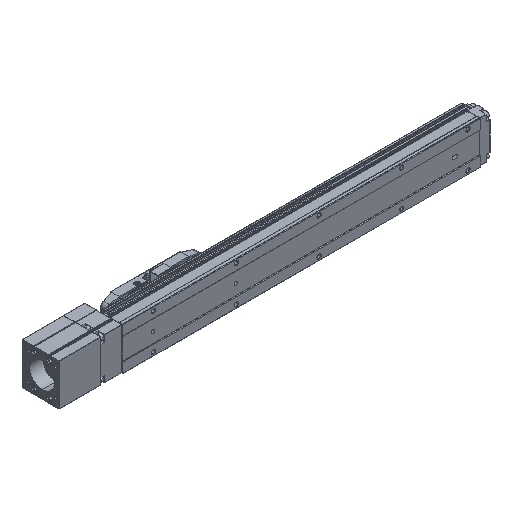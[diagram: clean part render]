
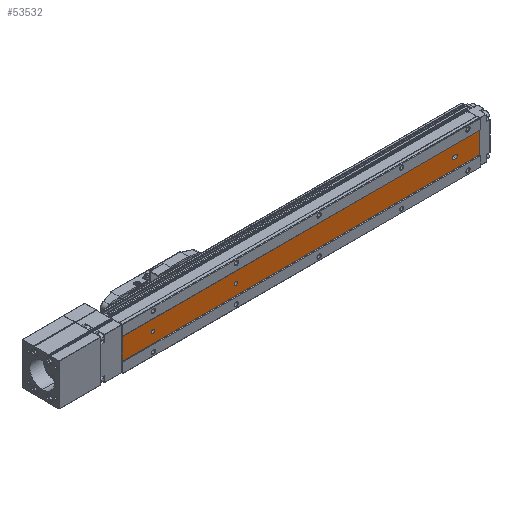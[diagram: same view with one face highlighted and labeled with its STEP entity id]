
A CAD part, isometric view. The second image highlights one B-rep face of the part: STEP entity #53532.
In plain terms, the highlighted planar face has unit normal (0, -1, 0).
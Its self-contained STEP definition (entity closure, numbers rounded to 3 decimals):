
#1189 = EDGE_CURVE ( 'NONE', #6938, #33170, #32039, .T. ) ;
#2406 = CARTESIAN_POINT ( 'NONE',  ( 137., 0.6, 2. ) ) ;
#2728 = CARTESIAN_POINT ( 'NONE',  ( 432., 0.6, 12.876 ) ) ;
#3009 = DIRECTION ( 'NONE',  ( 0., 1., 0. ) ) ;
#4160 = DIRECTION ( 'NONE',  ( 0., -1., 0. ) ) ;
#4248 = VERTEX_POINT ( 'NONE', #15257 ) ;
#4535 = DIRECTION ( 'NONE',  ( 0., 0., -1. ) ) ;
#5008 = ORIENTED_EDGE ( 'NONE', *, *, #44049, .T. ) ;
#5225 = CARTESIAN_POINT ( 'NONE',  ( 137., 0.6, -2. ) ) ;
#6123 = VERTEX_POINT ( 'NONE', #12546 ) ;
#6257 = LINE ( 'NONE', #23349, #11041 ) ;
#6891 = LINE ( 'NONE', #2728, #10584 ) ;
#6938 = VERTEX_POINT ( 'NONE', #25164 ) ;
#7901 = ORIENTED_EDGE ( 'NONE', *, *, #52526, .T. ) ;
#8633 = VERTEX_POINT ( 'NONE', #2406 ) ;
#8977 = ORIENTED_EDGE ( 'NONE', *, *, #17916, .F. ) ;
#8978 = VECTOR ( 'NONE', #4535, 1000. ) ;
#9451 = AXIS2_PLACEMENT_3D ( 'NONE', #25210, #12319, #46984 ) ;
#10294 = EDGE_LOOP ( 'NONE', ( #26788, #34103 ) ) ;
#10511 = CARTESIAN_POINT ( 'NONE',  ( 403., 0.6, 2. ) ) ;
#10527 = CARTESIAN_POINT ( 'NONE',  ( 0., 0.6, -12.876 ) ) ;
#10584 = VECTOR ( 'NONE', #15313, 1000. ) ;
#10670 = EDGE_LOOP ( 'NONE', ( #42092, #33879 ) ) ;
#11038 = CARTESIAN_POINT ( 'NONE',  ( 432., 0.6, 2. ) ) ;
#11041 = VECTOR ( 'NONE', #30859, 1000. ) ;
#11317 = LINE ( 'NONE', #11038, #24736 ) ;
#11319 = CIRCLE ( 'NONE', #36351, 2. ) ;
#11520 = CARTESIAN_POINT ( 'NONE',  ( 432., 0.6, 12.876 ) ) ;
#11890 = FACE_BOUND ( 'NONE', #10294, .T. ) ;
#12310 = VECTOR ( 'NONE', #36135, 1000. ) ;
#12319 = DIRECTION ( 'NONE',  ( 0., 1., 0. ) ) ;
#12546 = CARTESIAN_POINT ( 'NONE',  ( 37., 0.6, 2. ) ) ;
#12578 = ORIENTED_EDGE ( 'NONE', *, *, #24258, .F. ) ;
#14032 = VECTOR ( 'NONE', #36787, 1000. ) ;
#15257 = CARTESIAN_POINT ( 'NONE',  ( 0., 0.6, 12.876 ) ) ;
#15313 = DIRECTION ( 'NONE',  ( -1., 0., 0. ) ) ;
#16507 = CARTESIAN_POINT ( 'NONE',  ( 403., 0.6, 0. ) ) ;
#16926 = FACE_BOUND ( 'NONE', #18112, .T. ) ;
#17156 = LINE ( 'NONE', #38678, #8978 ) ;
#17916 = EDGE_CURVE ( 'NONE', #33170, #44845, #38911, .T. ) ;
#18112 = EDGE_LOOP ( 'NONE', ( #12578, #35252, #8977, #20856 ) ) ;
#19118 = LINE ( 'NONE', #11520, #12310 ) ;
#19673 = DIRECTION ( 'NONE',  ( 0., 0., 1. ) ) ;
#19747 = CARTESIAN_POINT ( 'NONE',  ( 432., 0.6, -2. ) ) ;
#20740 = CARTESIAN_POINT ( 'NONE',  ( 137., 0.6, 0. ) ) ;
#20856 = ORIENTED_EDGE ( 'NONE', *, *, #1189, .F. ) ;
#21123 = FACE_BOUND ( 'NONE', #10670, .T. ) ;
#23349 = CARTESIAN_POINT ( 'NONE',  ( 432., 0.6, -12.876 ) ) ;
#23881 = VERTEX_POINT ( 'NONE', #25341 ) ;
#23980 = CARTESIAN_POINT ( 'NONE',  ( 37., 0.6, 0. ) ) ;
#24258 = EDGE_CURVE ( 'NONE', #51697, #6938, #33917, .T. ) ;
#24736 = VECTOR ( 'NONE', #28383, 1000. ) ;
#25164 = CARTESIAN_POINT ( 'NONE',  ( 401., 0.6, -2. ) ) ;
#25210 = CARTESIAN_POINT ( 'NONE',  ( 37., 0.6, 0. ) ) ;
#25341 = CARTESIAN_POINT ( 'NONE',  ( 37., 0.6, -2. ) ) ;
#25570 = DIRECTION ( 'NONE',  ( 0., 0., 1. ) ) ;
#25589 = CARTESIAN_POINT ( 'NONE',  ( 432., 0.6, -12.876 ) ) ;
#25765 = CIRCLE ( 'NONE', #46329, 2. ) ;
#25851 = AXIS2_PLACEMENT_3D ( 'NONE', #46784, #30258, #37853 ) ;
#26116 = CARTESIAN_POINT ( 'NONE',  ( 432., 0.6, 12.876 ) ) ;
#26465 = CIRCLE ( 'NONE', #29182, 2. ) ;
#26788 = ORIENTED_EDGE ( 'NONE', *, *, #30255, .T. ) ;
#27435 = EDGE_CURVE ( 'NONE', #44845, #51697, #11317, .T. ) ;
#28383 = DIRECTION ( 'NONE',  ( -1., 0., 0. ) ) ;
#28945 = FACE_OUTER_BOUND ( 'NONE', #49468, .T. ) ;
#29182 = AXIS2_PLACEMENT_3D ( 'NONE', #20740, #37788, #54844 ) ;
#29433 = VERTEX_POINT ( 'NONE', #25589 ) ;
#30255 = EDGE_CURVE ( 'NONE', #23881, #6123, #33582, .T. ) ;
#30258 = DIRECTION ( 'NONE',  ( 0., -1., 0. ) ) ;
#30342 = EDGE_CURVE ( 'NONE', #8633, #39595, #26465, .T. ) ;
#30859 = DIRECTION ( 'NONE',  ( -1., 0., 0. ) ) ;
#31628 = ORIENTED_EDGE ( 'NONE', *, *, #38055, .F. ) ;
#32039 = LINE ( 'NONE', #19747, #14032 ) ;
#33170 = VERTEX_POINT ( 'NONE', #54700 ) ;
#33582 = CIRCLE ( 'NONE', #9451, 2. ) ;
#33879 = ORIENTED_EDGE ( 'NONE', *, *, #30342, .T. ) ;
#33917 = CIRCLE ( 'NONE', #25851, 2. ) ;
#33961 = PLANE ( 'NONE',  #34104 ) ;
#34103 = ORIENTED_EDGE ( 'NONE', *, *, #44018, .T. ) ;
#34104 = AXIS2_PLACEMENT_3D ( 'NONE', #26116, #43186, #25570 ) ;
#35252 = ORIENTED_EDGE ( 'NONE', *, *, #27435, .F. ) ;
#36135 = DIRECTION ( 'NONE',  ( 0., 0., -1. ) ) ;
#36267 = DIRECTION ( 'NONE',  ( 0., 0., 1. ) ) ;
#36351 = AXIS2_PLACEMENT_3D ( 'NONE', #53072, #39648, #52796 ) ;
#36787 = DIRECTION ( 'NONE',  ( 1., 0., 0. ) ) ;
#37483 = VERTEX_POINT ( 'NONE', #54217 ) ;
#37788 = DIRECTION ( 'NONE',  ( 0., 1., 0. ) ) ;
#37853 = DIRECTION ( 'NONE',  ( 0., 0., 1. ) ) ;
#38055 = EDGE_CURVE ( 'NONE', #29433, #47327, #6257, .T. ) ;
#38678 = CARTESIAN_POINT ( 'NONE',  ( 0., 0.6, 12.876 ) ) ;
#38911 = CIRCLE ( 'NONE', #51404, 2. ) ;
#39595 = VERTEX_POINT ( 'NONE', #5225 ) ;
#39648 = DIRECTION ( 'NONE',  ( 0., 1., 0. ) ) ;
#41682 = CARTESIAN_POINT ( 'NONE',  ( 401., 0.6, 2. ) ) ;
#42092 = ORIENTED_EDGE ( 'NONE', *, *, #47401, .T. ) ;
#43186 = DIRECTION ( 'NONE',  ( 0., 1., 0. ) ) ;
#43996 = ORIENTED_EDGE ( 'NONE', *, *, #48272, .F. ) ;
#44018 = EDGE_CURVE ( 'NONE', #6123, #23881, #25765, .T. ) ;
#44049 = EDGE_CURVE ( 'NONE', #37483, #4248, #6891, .T. ) ;
#44845 = VERTEX_POINT ( 'NONE', #10511 ) ;
#46329 = AXIS2_PLACEMENT_3D ( 'NONE', #23980, #3009, #36267 ) ;
#46784 = CARTESIAN_POINT ( 'NONE',  ( 401., 0.6, 0. ) ) ;
#46984 = DIRECTION ( 'NONE',  ( 0., 0., 1. ) ) ;
#47327 = VERTEX_POINT ( 'NONE', #10527 ) ;
#47401 = EDGE_CURVE ( 'NONE', #39595, #8633, #11319, .T. ) ;
#48272 = EDGE_CURVE ( 'NONE', #37483, #29433, #19118, .T. ) ;
#49468 = EDGE_LOOP ( 'NONE', ( #7901, #31628, #43996, #5008 ) ) ;
#51404 = AXIS2_PLACEMENT_3D ( 'NONE', #16507, #4160, #19673 ) ;
#51697 = VERTEX_POINT ( 'NONE', #41682 ) ;
#52526 = EDGE_CURVE ( 'NONE', #4248, #47327, #17156, .T. ) ;
#52796 = DIRECTION ( 'NONE',  ( 0., 0., 1. ) ) ;
#53072 = CARTESIAN_POINT ( 'NONE',  ( 137., 0.6, 0. ) ) ;
#53532 = ADVANCED_FACE ( 'NONE', ( #11890, #21123, #28945, #16926 ), #33961, .F. ) ;
#54217 = CARTESIAN_POINT ( 'NONE',  ( 432., 0.6, 12.876 ) ) ;
#54700 = CARTESIAN_POINT ( 'NONE',  ( 403., 0.6, -2. ) ) ;
#54844 = DIRECTION ( 'NONE',  ( 0., 0., 1. ) ) ;
